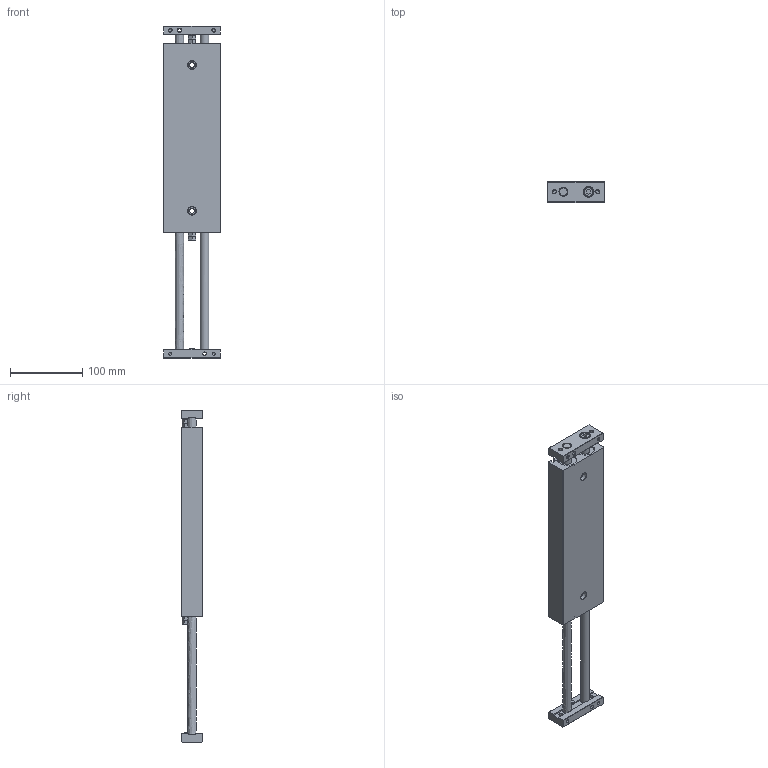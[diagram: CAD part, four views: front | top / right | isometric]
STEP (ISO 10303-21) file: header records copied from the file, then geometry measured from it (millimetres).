
FILE_DESCRIPTION((''),'2;1');
FILE_NAME('I:\3D電子目錄\氣缸\STX\STX\STX25\STX25x150.stp','2007-10-02T09:10:51',('Administrator'),(''),'Autodesk Inventor 11','Autodesk Inventor 11','');
FILE_SCHEMA(('AUTOMOTIVE_DESIGN { 1 0 10303 214 1 1 1 1 }'));
Length unit declared in the file: millimetre
Products named in the file (1): STX25
Bounding box: 80 x 30 x 460 mm (x, y, z)
Volume: 687653.3 mm3; surface area: 104755.3 mm2
Topology: 1 solids, 1 shells, 274 faces, 653 edges, 406 vertices
Faces by surface type: plane 127, cone 75, bspline 46, cylinder 22, torus 4
Full cylindrical faces by diameter (mm): 4.134 x4, 6 x2, 11 x2, 12 x4, 12.2 x2, 13 x2, 14 x2, 26 x2, 27.4 x2
Entity records: 8035 total; most frequent: CARTESIAN_POINT 2555, ORIENTED_EDGE 1058, DIRECTION 1056, EDGE_CURVE 529, EDGE_LOOP 420, AXIS2_PLACEMENT_3D 402, VERTEX_POINT 373, FACE_OUTER_BOUND 274
